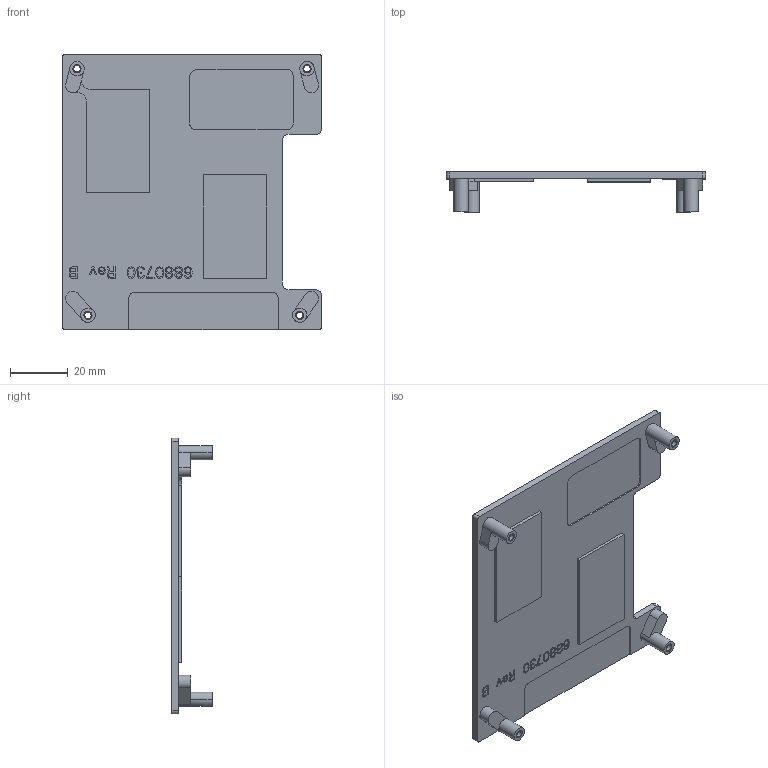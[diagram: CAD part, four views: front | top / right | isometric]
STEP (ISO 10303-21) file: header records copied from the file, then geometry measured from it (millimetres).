
FILE_DESCRIPTION((''),'2;1');
FILE_NAME('6880730_REVB','2019-02-01T',('user'),(''),'PRO/ENGINEER BY PARAMETRIC TECHNOLOGY CORPORATION, 2012130','PRO/ENGINEER BY PARAMETRIC TECHNOLOGY CORPORATION, 2012130','');
FILE_SCHEMA(('CONFIG_CONTROL_DESIGN'));
Length unit declared in the file: millimetre
Products named in the file (1): 6880730_REVB
Bounding box: 90.17 x 14 x 95.89 mm (x, y, z)
Volume: 21213.8 mm3; surface area: 18998 mm2
Topology: 1 solids, 9 shells, 602 faces, 1699 edges, 1131 vertices
Faces by surface type: plane 534, cylinder 60, cone 8
Entity records: 19186 total; most frequent: CARTESIAN_POINT 3425, ORIENTED_EDGE 3350, DIRECTION 3041, EDGE_CURVE 1691, VECTOR 1547, LINE 1547, VERTEX_POINT 1131, AXIS2_PLACEMENT_3D 747
